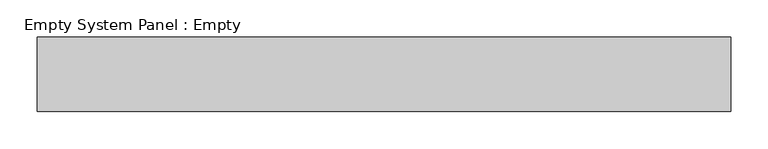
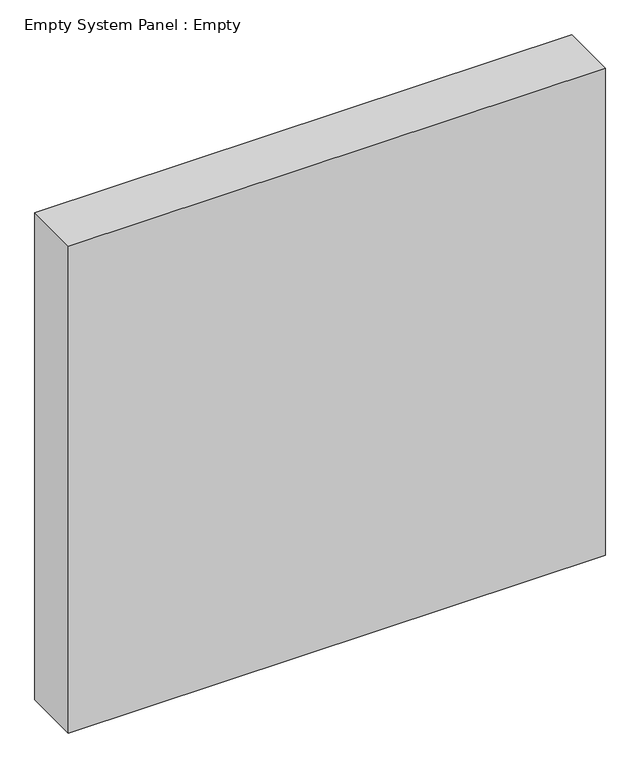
"""IFC4 building model written with IfcOpenShell, lengths in millimetres: plate geometry, Empty System Panel : Empty."""

from ifc_helpers import new_model, si_unit, origin, origin_with_axes, place, context, project, spatial, polyline, outline, extrude, source, transform, mapped, element, save


def empty_system_panel_empty_060dda74(model_context):
    return source(origin(), model_context, "Body", "SweptSolid", [
        extrude(outline(polyline([(464.2950184, -50.0), (-464.2950184, -50.0), (-464.2950184, 50.0), (464.2950184, 50.0), (464.2950184, -50.0)])), origin_with_axes(), (0.0, 0.0, 1.0), 890.0),
    ])


if __name__ == "__main__":
    model = new_model("IFC4")
    model_context = context("Model", 3, world=origin())
    ifc_project = project(units=[si_unit("LENGTHUNIT", "METRE", prefix="MILLI")], contexts=[model_context])
    site = spatial("IfcSite", under=ifc_project)
    building = spatial("IfcBuilding", under=site)
    placement = place(None, origin())
    empty_system_panel_empty_shape = empty_system_panel_empty_060dda74(model_context)
    element("IfcPlate", 1, ObjectType="Empty System Panel : Empty", at=placement, inside=building, context=model_context, shape_type="MappedRepresentation", body=[
        mapped(empty_system_panel_empty_shape, transform((0.0, 0.0, 0.0), x_axis=(1.0, 0.0, 0.0), y_axis=(0.0, 1.0, 0.0), z_axis=(0.0, 0.0, 1.0))),
    ])
    save(model, "model.ifc")
